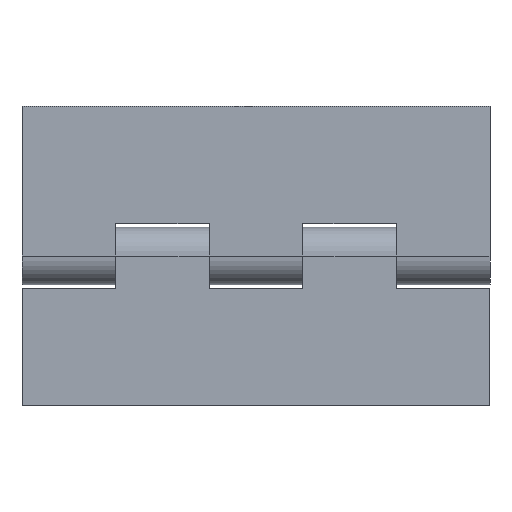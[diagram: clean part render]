
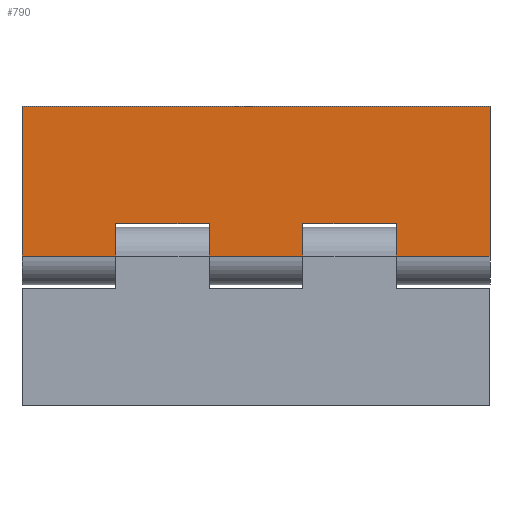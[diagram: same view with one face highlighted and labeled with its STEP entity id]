
A CAD part, front view. The second image highlights one B-rep face of the part: STEP entity #790.
In plain terms, the highlighted planar face has unit normal (0, -1, 0).
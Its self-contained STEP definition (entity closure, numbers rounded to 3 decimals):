
#21 = DIRECTION ( 'NONE',  ( 0., 0., 1. ) ) ;
#34 = EDGE_CURVE ( 'NONE', #1602, #49, #1000, .T. ) ;
#43 = DIRECTION ( 'NONE',  ( -1., 0., 0. ) ) ;
#46 = DIRECTION ( 'NONE',  ( -1., 0., 0. ) ) ;
#49 = VERTEX_POINT ( 'NONE', #2337 ) ;
#52 = VERTEX_POINT ( 'NONE', #872 ) ;
#115 = CARTESIAN_POINT ( 'NONE',  ( -25., 0., -16. ) ) ;
#130 = ORIENTED_EDGE ( 'NONE', *, *, #707, .T. ) ;
#142 = VECTOR ( 'NONE', #2069, 1000. ) ;
#182 = CARTESIAN_POINT ( 'NONE',  ( 15., 0., -3.45 ) ) ;
#183 = VERTEX_POINT ( 'NONE', #115 ) ;
#203 = CARTESIAN_POINT ( 'NONE',  ( -25., 0., 0. ) ) ;
#225 = EDGE_CURVE ( 'NONE', #1856, #378, #1330, .T. ) ;
#239 = LINE ( 'NONE', #1717, #959 ) ;
#257 = VECTOR ( 'NONE', #1005, 1000. ) ;
#267 = EDGE_CURVE ( 'NONE', #378, #1602, #1696, .T. ) ;
#279 = EDGE_LOOP ( 'NONE', ( #1941, #787, #1700, #1936, #130, #729, #2074, #489, #365, #1547, #497, #1118 ) ) ;
#310 = CARTESIAN_POINT ( 'NONE',  ( 15., 0., 0. ) ) ;
#339 = CARTESIAN_POINT ( 'NONE',  ( -15., 0., -3.45 ) ) ;
#365 = ORIENTED_EDGE ( 'NONE', *, *, #2396, .F. ) ;
#378 = VERTEX_POINT ( 'NONE', #182 ) ;
#394 = PLANE ( 'NONE',  #1511 ) ;
#480 = CARTESIAN_POINT ( 'NONE',  ( -25., 0., 0. ) ) ;
#489 = ORIENTED_EDGE ( 'NONE', *, *, #1683, .F. ) ;
#497 = ORIENTED_EDGE ( 'NONE', *, *, #225, .T. ) ;
#558 = LINE ( 'NONE', #1303, #1512 ) ;
#614 = CARTESIAN_POINT ( 'NONE',  ( 25., 0., 0. ) ) ;
#675 = DIRECTION ( 'NONE',  ( 0., 0., -1. ) ) ;
#676 = CARTESIAN_POINT ( 'NONE',  ( 25., 0., 0. ) ) ;
#707 = EDGE_CURVE ( 'NONE', #1014, #1064, #1680, .T. ) ;
#729 = ORIENTED_EDGE ( 'NONE', *, *, #1037, .T. ) ;
#748 = CARTESIAN_POINT ( 'NONE',  ( 5., 0., -3.45 ) ) ;
#787 = ORIENTED_EDGE ( 'NONE', *, *, #1265, .T. ) ;
#790 = ADVANCED_FACE ( 'NONE', ( #1647 ), #394, .F. ) ;
#872 = CARTESIAN_POINT ( 'NONE',  ( 25., 0., 0. ) ) ;
#938 = CARTESIAN_POINT ( 'NONE',  ( -5., 0., 0. ) ) ;
#959 = VECTOR ( 'NONE', #43, 1000. ) ;
#1000 = LINE ( 'NONE', #1377, #1366 ) ;
#1005 = DIRECTION ( 'NONE',  ( 0., 0., -1. ) ) ;
#1014 = VERTEX_POINT ( 'NONE', #339 ) ;
#1037 = EDGE_CURVE ( 'NONE', #1064, #2046, #2360, .T. ) ;
#1064 = VERTEX_POINT ( 'NONE', #2306 ) ;
#1118 = ORIENTED_EDGE ( 'NONE', *, *, #267, .T. ) ;
#1132 = VECTOR ( 'NONE', #2397, 1000. ) ;
#1141 = VECTOR ( 'NONE', #2056, 1000. ) ;
#1163 = CARTESIAN_POINT ( 'NONE',  ( 15., 0., 3.05 ) ) ;
#1185 = CARTESIAN_POINT ( 'NONE',  ( 25., 0., -16. ) ) ;
#1265 = EDGE_CURVE ( 'NONE', #49, #1282, #558, .T. ) ;
#1282 = VERTEX_POINT ( 'NONE', #938 ) ;
#1303 = CARTESIAN_POINT ( 'NONE',  ( 25., 0., 0. ) ) ;
#1330 = LINE ( 'NONE', #1163, #2278 ) ;
#1331 = LINE ( 'NONE', #614, #2362 ) ;
#1366 = VECTOR ( 'NONE', #1732, 1000. ) ;
#1367 = VERTEX_POINT ( 'NONE', #1695 ) ;
#1377 = CARTESIAN_POINT ( 'NONE',  ( 5., 0., 3.05 ) ) ;
#1410 = DIRECTION ( 'NONE',  ( -1., 0., 0. ) ) ;
#1485 = DIRECTION ( 'NONE',  ( 0., 0., -1. ) ) ;
#1511 = AXIS2_PLACEMENT_3D ( 'NONE', #1660, #1693, #21 ) ;
#1512 = VECTOR ( 'NONE', #2032, 1000. ) ;
#1513 = CARTESIAN_POINT ( 'NONE',  ( -15., 0., 3.05 ) ) ;
#1530 = LINE ( 'NONE', #1185, #142 ) ;
#1547 = ORIENTED_EDGE ( 'NONE', *, *, #1664, .T. ) ;
#1580 = VERTEX_POINT ( 'NONE', #1970 ) ;
#1596 = LINE ( 'NONE', #2316, #257 ) ;
#1602 = VERTEX_POINT ( 'NONE', #2164 ) ;
#1647 = FACE_OUTER_BOUND ( 'NONE', #279, .T. ) ;
#1648 = CARTESIAN_POINT ( 'NONE',  ( -5., 0., 3.05 ) ) ;
#1660 = CARTESIAN_POINT ( 'NONE',  ( 25., 0., 0. ) ) ;
#1664 = EDGE_CURVE ( 'NONE', #52, #1856, #1331, .T. ) ;
#1680 = LINE ( 'NONE', #1513, #1132 ) ;
#1683 = EDGE_CURVE ( 'NONE', #1367, #183, #1530, .T. ) ;
#1693 = DIRECTION ( 'NONE',  ( 0., 1., 0. ) ) ;
#1695 = CARTESIAN_POINT ( 'NONE',  ( 25., 0., -16. ) ) ;
#1696 = LINE ( 'NONE', #748, #1141 ) ;
#1700 = ORIENTED_EDGE ( 'NONE', *, *, #2118, .T. ) ;
#1717 = CARTESIAN_POINT ( 'NONE',  ( -15., 0., -3.45 ) ) ;
#1732 = DIRECTION ( 'NONE',  ( 0., 0., 1. ) ) ;
#1825 = EDGE_CURVE ( 'NONE', #2046, #183, #2155, .T. ) ;
#1841 = VECTOR ( 'NONE', #675, 1000. ) ;
#1856 = VERTEX_POINT ( 'NONE', #310 ) ;
#1880 = VECTOR ( 'NONE', #1485, 1000. ) ;
#1936 = ORIENTED_EDGE ( 'NONE', *, *, #2289, .T. ) ;
#1941 = ORIENTED_EDGE ( 'NONE', *, *, #34, .T. ) ;
#1970 = CARTESIAN_POINT ( 'NONE',  ( -5., 0., -3.45 ) ) ;
#2000 = VECTOR ( 'NONE', #1410, 1000. ) ;
#2032 = DIRECTION ( 'NONE',  ( -1., 0., 0. ) ) ;
#2033 = DIRECTION ( 'NONE',  ( 0., 0., -1. ) ) ;
#2046 = VERTEX_POINT ( 'NONE', #203 ) ;
#2056 = DIRECTION ( 'NONE',  ( -1., 0., 0. ) ) ;
#2069 = DIRECTION ( 'NONE',  ( -1., 0., 0. ) ) ;
#2074 = ORIENTED_EDGE ( 'NONE', *, *, #1825, .T. ) ;
#2118 = EDGE_CURVE ( 'NONE', #1282, #1580, #2398, .T. ) ;
#2155 = LINE ( 'NONE', #480, #1841 ) ;
#2164 = CARTESIAN_POINT ( 'NONE',  ( 5., 0., -3.45 ) ) ;
#2278 = VECTOR ( 'NONE', #2033, 1000. ) ;
#2289 = EDGE_CURVE ( 'NONE', #1580, #1014, #239, .T. ) ;
#2306 = CARTESIAN_POINT ( 'NONE',  ( -15., 0., 0. ) ) ;
#2316 = CARTESIAN_POINT ( 'NONE',  ( 25., 0., 0. ) ) ;
#2337 = CARTESIAN_POINT ( 'NONE',  ( 5., 0., 0. ) ) ;
#2360 = LINE ( 'NONE', #676, #2000 ) ;
#2362 = VECTOR ( 'NONE', #46, 1000. ) ;
#2396 = EDGE_CURVE ( 'NONE', #52, #1367, #1596, .T. ) ;
#2397 = DIRECTION ( 'NONE',  ( 0., 0., 1. ) ) ;
#2398 = LINE ( 'NONE', #1648, #1880 ) ;
